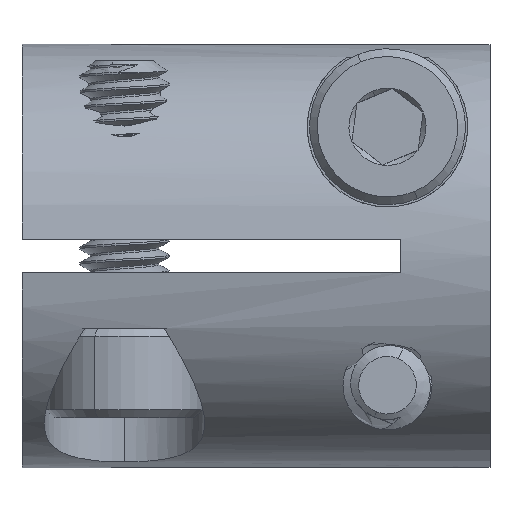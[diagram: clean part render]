
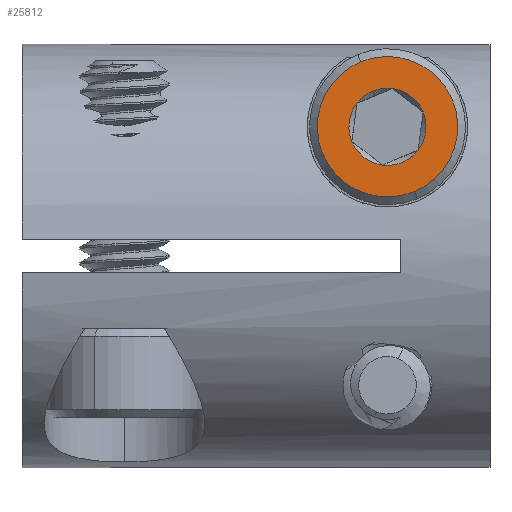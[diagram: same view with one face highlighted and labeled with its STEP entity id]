
A CAD part, left-side view. The second image highlights one B-rep face of the part: STEP entity #25812.
In plain terms, the highlighted planar face has unit normal (-1, 0, 0) as drawn and (0, 0, -1) by its records, which use the part's own axes.
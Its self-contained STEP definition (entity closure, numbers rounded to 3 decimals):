
#34 = VERTEX_POINT ( 'NONE', #3513 ) ;
#767 = ORIENTED_EDGE ( 'NONE', *, *, #55360, .F. ) ;
#1624 = AXIS2_PLACEMENT_3D ( 'NONE', #23060, #14438, #53148 ) ;
#2092 = EDGE_CURVE ( 'NONE', #45445, #37027, #19656, .T. ) ;
#2895 = AXIS2_PLACEMENT_3D ( 'NONE', #47018, #25579, #25200 ) ;
#3169 = EDGE_CURVE ( 'NONE', #13625, #7674, #8860, .T. ) ;
#3501 = DIRECTION ( 'NONE',  ( -1., 0., 0. ) ) ;
#3513 = CARTESIAN_POINT ( 'NONE',  ( -1.5, 0.866, -16. ) ) ;
#4138 = DIRECTION ( 'NONE',  ( -1., 0., 0. ) ) ;
#6795 = CARTESIAN_POINT ( 'NONE',  ( -3.15, 0., -16. ) ) ;
#7182 = AXIS2_PLACEMENT_3D ( 'NONE', #8727, #8145, #8535 ) ;
#7250 = ORIENTED_EDGE ( 'NONE', *, *, #3169, .T. ) ;
#7633 = AXIS2_PLACEMENT_3D ( 'NONE', #16922, #55846, #30413 ) ;
#7674 = VERTEX_POINT ( 'NONE', #15077 ) ;
#8107 = CARTESIAN_POINT ( 'NONE',  ( 0., -1.732, -16. ) ) ;
#8145 = DIRECTION ( 'NONE',  ( 0., 0., -1. ) ) ;
#8535 = DIRECTION ( 'NONE',  ( -1., 0., 0. ) ) ;
#8727 = CARTESIAN_POINT ( 'NONE',  ( 0., 0., -16. ) ) ;
#8860 = CIRCLE ( 'NONE', #52923, 3.15 ) ;
#9303 = FACE_OUTER_BOUND ( 'NONE', #44159, .T. ) ;
#11033 = VERTEX_POINT ( 'NONE', #50110 ) ;
#11902 = ORIENTED_EDGE ( 'NONE', *, *, #30758, .F. ) ;
#11901 = CIRCLE ( 'NONE', #1624, 1.732 ) ;
#12689 = DIRECTION ( 'NONE',  ( 0., 0., -1. ) ) ;
#13360 = DIRECTION ( 'NONE',  ( -1., 0., 0. ) ) ;
#13625 = VERTEX_POINT ( 'NONE', #6795 ) ;
#14421 = ORIENTED_EDGE ( 'NONE', *, *, #42389, .F. ) ;
#14438 = DIRECTION ( 'NONE',  ( 0., 0., -1. ) ) ;
#14639 = AXIS2_PLACEMENT_3D ( 'NONE', #48934, #53410, #27606 ) ;
#15077 = CARTESIAN_POINT ( 'NONE',  ( 3.15, 0., -16. ) ) ;
#16922 = CARTESIAN_POINT ( 'NONE',  ( 0., 0., -16. ) ) ;
#16923 = CARTESIAN_POINT ( 'NONE',  ( 0., 0., -16. ) ) ;
#17425 = PLANE ( 'NONE',  #37907 ) ;
#17856 = EDGE_LOOP ( 'NONE', ( #48082, #11902, #31251, #14421, #42693, #36511, #767 ) ) ;
#18800 = CARTESIAN_POINT ( 'NONE',  ( 0., 1.732, -16. ) ) ;
#19656 = CIRCLE ( 'NONE', #47993, 1.732 ) ;
#20825 = DIRECTION ( 'NONE',  ( 0., 0., -1. ) ) ;
#21259 = DIRECTION ( 'NONE',  ( 0., 0., -1. ) ) ;
#22858 = CIRCLE ( 'NONE', #54797, 3.15 ) ;
#23060 = CARTESIAN_POINT ( 'NONE',  ( 0., 0., -16. ) ) ;
#24066 = EDGE_CURVE ( 'NONE', #11033, #45445, #40889, .T. ) ;
#25037 = VERTEX_POINT ( 'NONE', #18800 ) ;
#25200 = DIRECTION ( 'NONE',  ( -1., 0., 0. ) ) ;
#25384 = FACE_BOUND ( 'NONE', #17856, .T. ) ;
#25502 = CARTESIAN_POINT ( 'NONE',  ( 0., 0., -16. ) ) ;
#25579 = DIRECTION ( 'NONE',  ( 0., 0., -1. ) ) ;
#25812 = ADVANCED_FACE ( 'NONE', ( #9303, #25384 ), #17425, .T. ) ;
#27606 = DIRECTION ( 'NONE',  ( -1., 0., 0. ) ) ;
#28481 = ORIENTED_EDGE ( 'NONE', *, *, #42919, .T. ) ;
#29266 = DIRECTION ( 'NONE',  ( -1., 0., 0. ) ) ;
#29528 = CIRCLE ( 'NONE', #42148, 1.732 ) ;
#29950 = CIRCLE ( 'NONE', #2895, 1.732 ) ;
#30413 = DIRECTION ( 'NONE',  ( -1., 0., 0. ) ) ;
#30758 = EDGE_CURVE ( 'NONE', #46169, #34, #29950, .T. ) ;
#31251 = ORIENTED_EDGE ( 'NONE', *, *, #48587, .F. ) ;
#33697 = CARTESIAN_POINT ( 'NONE',  ( -1.5, -0.866, -16. ) ) ;
#33782 = CARTESIAN_POINT ( 'NONE',  ( 0., 0., -16. ) ) ;
#34743 = DIRECTION ( 'NONE',  ( 0., 0., -1. ) ) ;
#36511 = ORIENTED_EDGE ( 'NONE', *, *, #24066, .F. ) ;
#37027 = VERTEX_POINT ( 'NONE', #8107 ) ;
#37833 = VERTEX_POINT ( 'NONE', #33697 ) ;
#37907 = AXIS2_PLACEMENT_3D ( 'NONE', #38401, #12689, #47494 ) ;
#38401 = CARTESIAN_POINT ( 'NONE',  ( 0., 0., -16. ) ) ;
#38984 = EDGE_CURVE ( 'NONE', #34, #25037, #53891, .T. ) ;
#40889 = CIRCLE ( 'NONE', #7633, 1.732 ) ;
#42148 = AXIS2_PLACEMENT_3D ( 'NONE', #33782, #21259, #29266 ) ;
#42389 = EDGE_CURVE ( 'NONE', #37027, #37833, #29528, .T. ) ;
#42693 = ORIENTED_EDGE ( 'NONE', *, *, #2092, .F. ) ;
#42919 = EDGE_CURVE ( 'NONE', #7674, #13625, #22858, .T. ) ;
#44159 = EDGE_LOOP ( 'NONE', ( #28481, #7250 ) ) ;
#45445 = VERTEX_POINT ( 'NONE', #54816 ) ;
#46169 = VERTEX_POINT ( 'NONE', #47876 ) ;
#47018 = CARTESIAN_POINT ( 'NONE',  ( 0., 0., -16. ) ) ;
#47177 = DIRECTION ( 'NONE',  ( 0., 0., -1. ) ) ;
#47373 = CARTESIAN_POINT ( 'NONE',  ( 0., 0., -16. ) ) ;
#47494 = DIRECTION ( 'NONE',  ( -1., 0., 0. ) ) ;
#47876 = CARTESIAN_POINT ( 'NONE',  ( -1.732, 0., -16. ) ) ;
#47993 = AXIS2_PLACEMENT_3D ( 'NONE', #16923, #47177, #4138 ) ;
#48082 = ORIENTED_EDGE ( 'NONE', *, *, #38984, .F. ) ;
#48587 = EDGE_CURVE ( 'NONE', #37833, #46169, #11901, .T. ) ;
#48934 = CARTESIAN_POINT ( 'NONE',  ( 0., 0., -16. ) ) ;
#50110 = CARTESIAN_POINT ( 'NONE',  ( 1.5, 0.866, -16. ) ) ;
#52911 = CIRCLE ( 'NONE', #14639, 1.732 ) ;
#52923 = AXIS2_PLACEMENT_3D ( 'NONE', #25502, #20825, #3501 ) ;
#53148 = DIRECTION ( 'NONE',  ( -1., 0., 0. ) ) ;
#53410 = DIRECTION ( 'NONE',  ( 0., 0., -1. ) ) ;
#53891 = CIRCLE ( 'NONE', #7182, 1.732 ) ;
#54797 = AXIS2_PLACEMENT_3D ( 'NONE', #47373, #34743, #13360 ) ;
#54816 = CARTESIAN_POINT ( 'NONE',  ( 1.5, -0.866, -16. ) ) ;
#55360 = EDGE_CURVE ( 'NONE', #25037, #11033, #52911, .T. ) ;
#55846 = DIRECTION ( 'NONE',  ( 0., 0., -1. ) ) ;
